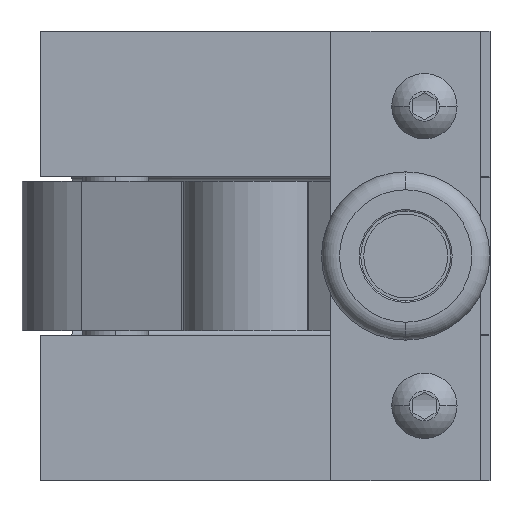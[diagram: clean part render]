
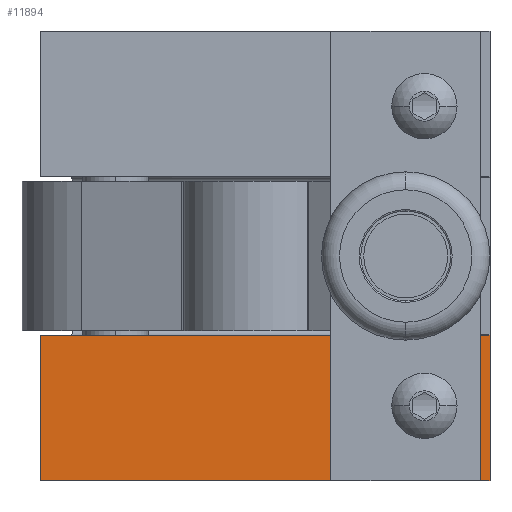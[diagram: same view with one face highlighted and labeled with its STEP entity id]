
A CAD part, left-side view. The second image highlights one B-rep face of the part: STEP entity #11894.
In plain terms, the highlighted planar face has unit normal (-1, 0, 0).
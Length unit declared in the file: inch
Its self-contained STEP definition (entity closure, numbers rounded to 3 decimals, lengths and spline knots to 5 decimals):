
#11646 = VERTEX_POINT ( 'NONE', #21731 ) ;
#11647 = VERTEX_POINT ( 'NONE', #21730 ) ;
#11648 = ORIENTED_EDGE ( 'NONE', *, *, #11649, .F. ) ;
#11649 = EDGE_CURVE ( 'NONE', #11650, #11646, #21727, .T. ) ;
#11650 = VERTEX_POINT ( 'NONE', #21721 ) ;
#11651 = ORIENTED_EDGE ( 'NONE', *, *, #11652, .T. ) ;
#11652 = EDGE_CURVE ( 'NONE', #11650, #11653, #21719, .T. ) ;
#11653 = VERTEX_POINT ( 'NONE', #21696 ) ;
#11662 = EDGE_LOOP ( 'NONE', ( #11663, #11667 ) ) ;
#11663 = ORIENTED_EDGE ( 'NONE', *, *, #11664, .F. ) ;
#11664 = EDGE_CURVE ( 'NONE', #11665, #11666, #21638, .T. ) ;
#11665 = VERTEX_POINT ( 'NONE', #21631 ) ;
#11666 = VERTEX_POINT ( 'NONE', #21630 ) ;
#11667 = ORIENTED_EDGE ( 'NONE', *, *, #11668, .F. ) ;
#11668 = EDGE_CURVE ( 'NONE', #11666, #11665, #21679, .T. ) ;
#11669 = EDGE_LOOP ( 'NONE', ( #11670, #11648, #11651, #11768 ) ) ;
#11670 = ORIENTED_EDGE ( 'NONE', *, *, #11671, .F. ) ;
#11671 = EDGE_CURVE ( 'NONE', #11646, #11647, #21673, .T. ) ;
#11768 = ORIENTED_EDGE ( 'NONE', *, *, #11769, .T. ) ;
#11769 = EDGE_CURVE ( 'NONE', #11653, #11647, #22141, .T. ) ;
#11894 = ADVANCED_FACE ( 'NONE', ( #22581, #22580 ), #22560, .T. ) ;
#21630 = CARTESIAN_POINT ( 'NONE',  ( -2.42119, -1.16381, -0.83357 ) ) ;
#21631 = CARTESIAN_POINT ( 'NONE',  ( -2.42119, -1.16381, -0.58357 ) ) ;
#21633 = DIRECTION ( 'NONE',  ( 0., 0., 1. ) ) ;
#21634 = DIRECTION ( 'NONE',  ( -1., 0., 0. ) ) ;
#21636 = CARTESIAN_POINT ( 'NONE',  ( -2.42119, -1.16381, -0.70857 ) ) ;
#21637 = AXIS2_PLACEMENT_3D ( 'NONE', #21636, #21634, #21633 ) ;
#21638 = CIRCLE ( 'NONE', #21637, 0.125 ) ;
#21670 = DIRECTION ( 'NONE',  ( 0., -1., 0. ) ) ;
#21671 = VECTOR ( 'NONE', #21670, 39.37008 ) ;
#21672 = CARTESIAN_POINT ( 'NONE',  ( -2.42119, -1.60181, -0.23857 ) ) ;
#21673 = LINE ( 'NONE', #21672, #21671 ) ;
#21675 = DIRECTION ( 'NONE',  ( 0., 0., 1. ) ) ;
#21676 = DIRECTION ( 'NONE',  ( -1., 0., 0. ) ) ;
#21677 = CARTESIAN_POINT ( 'NONE',  ( -2.42119, -1.16381, -0.70857 ) ) ;
#21678 = AXIS2_PLACEMENT_3D ( 'NONE', #21677, #21676, #21675 ) ;
#21679 = CIRCLE ( 'NONE', #21678, 0.125 ) ;
#21696 = CARTESIAN_POINT ( 'NONE',  ( -2.42119, -1.60181, -1.20857 ) ) ;
#21716 = DIRECTION ( 'NONE',  ( 0., -1., 0. ) ) ;
#21717 = VECTOR ( 'NONE', #21716, 39.37008 ) ;
#21718 = CARTESIAN_POINT ( 'NONE',  ( -2.42119, -1.60181, -1.20857 ) ) ;
#21719 = LINE ( 'NONE', #21718, #21717 ) ;
#21721 = CARTESIAN_POINT ( 'NONE',  ( -2.42119, 1.39819, -1.20857 ) ) ;
#21724 = DIRECTION ( 'NONE',  ( 0., 0., 1. ) ) ;
#21725 = VECTOR ( 'NONE', #21724, 39.37008 ) ;
#21726 = CARTESIAN_POINT ( 'NONE',  ( -2.42119, 1.39819, -1.20857 ) ) ;
#21727 = LINE ( 'NONE', #21726, #21725 ) ;
#21730 = CARTESIAN_POINT ( 'NONE',  ( -2.42119, -1.60181, -0.23857 ) ) ;
#21731 = CARTESIAN_POINT ( 'NONE',  ( -2.42119, 1.39819, -0.23857 ) ) ;
#22138 = DIRECTION ( 'NONE',  ( 0., 0., 1. ) ) ;
#22139 = VECTOR ( 'NONE', #22138, 39.37008 ) ;
#22140 = CARTESIAN_POINT ( 'NONE',  ( -2.42119, -1.60181, -1.20857 ) ) ;
#22141 = LINE ( 'NONE', #22140, #22139 ) ;
#22556 = DIRECTION ( 'NONE',  ( 0., 0., 1. ) ) ;
#22557 = DIRECTION ( 'NONE',  ( -1., 0., 0. ) ) ;
#22558 = CARTESIAN_POINT ( 'NONE',  ( -2.42119, -1.60181, -1.20857 ) ) ;
#22559 = AXIS2_PLACEMENT_3D ( 'NONE', #22558, #22557, #22556 ) ;
#22560 = PLANE ( 'NONE',  #22559 ) ;
#22580 = FACE_OUTER_BOUND ( 'NONE', #11669, .T. ) ;
#22581 = FACE_BOUND ( 'NONE', #11662, .T. ) ;
